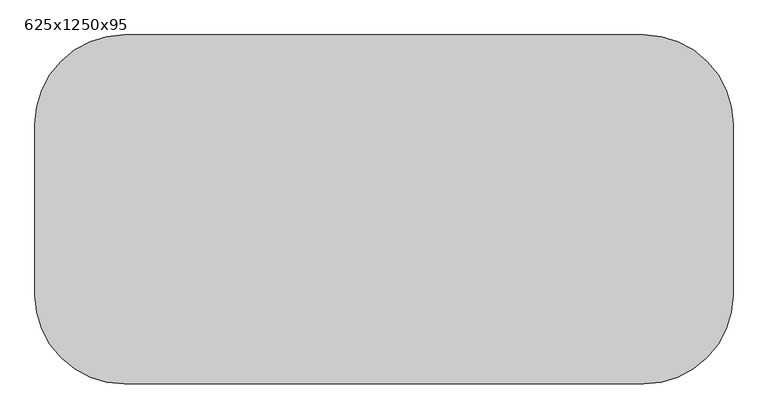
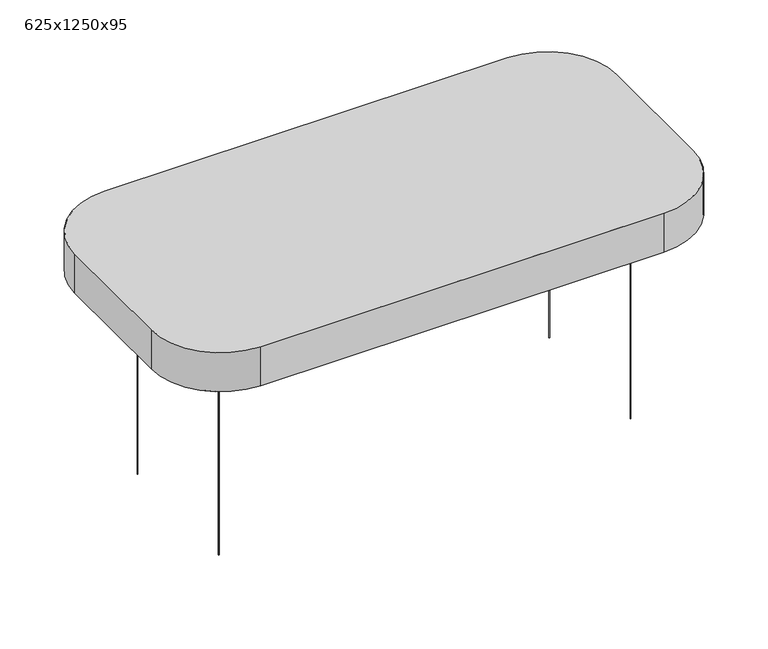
"""IFC4 building model written with IfcOpenShell, lengths in millimetres: proxy geometry, Texaa_Coussin_Abso_Rectangles_Suspendus_plafond : 625x1250x95."""

from ifc_helpers import new_model, si_unit, point, frame, frame_2d, origin, origin_with_axes, place, context, project, spatial, polyline, circle_curve, trimmed, segment, composite_curve, outline, extrude, source, transform, mapped, element, save
from ifc_brep_helpers import plane_surface, cylinder_surface, revolved_surface, advanced_brep


def proxy_625x1250x95_d9c0cd38(model_context):
    return source(origin(), model_context, "Body", "SolidModel", [
        extrude(outline(composite_curve([segment(trimmed(circle_curve(frame_2d((-475.0, -162.5)), 0.75), [point((-475.75, -162.5))], [point((-474.25, -162.5))], False, "CARTESIAN"), True, "CONTINUOUS"), segment(trimmed(circle_curve(frame_2d((-475.0, -162.5)), 0.75), [point((-474.25, -162.5))], [point((-475.75, -162.5))], False, "CARTESIAN"), True, "CONTINUOUS")], self_intersect=False)), origin_with_axes(), (0.0, 0.0, 1.0), 500.0),
        extrude(outline(composite_curve([segment(trimmed(circle_curve(frame_2d((475.0, -162.5)), 0.75), [point((474.25, -162.5))], [point((475.75, -162.5))], False, "CARTESIAN"), True, "CONTINUOUS"), segment(trimmed(circle_curve(frame_2d((475.0, -162.5)), 0.75), [point((475.75, -162.5))], [point((474.25, -162.5))], False, "CARTESIAN"), True, "CONTINUOUS")], self_intersect=False)), origin_with_axes(), (0.0, 0.0, 1.0), 500.0),
        extrude(outline(composite_curve([segment(trimmed(circle_curve(frame_2d((475.0, 162.5)), 0.75), [point((474.25, 162.5))], [point((475.75, 162.5))], False, "CARTESIAN"), True, "CONTINUOUS"), segment(trimmed(circle_curve(frame_2d((475.0, 162.5)), 0.75), [point((475.75, 162.5))], [point((474.25, 162.5))], False, "CARTESIAN"), True, "CONTINUOUS")], self_intersect=False)), origin_with_axes(), (0.0, 0.0, 1.0), 500.0),
        extrude(outline(composite_curve([segment(trimmed(circle_curve(frame_2d((-475.0, 162.5)), 0.75), [point((-475.75, 162.5))], [point((-474.25, 162.5))], False, "CARTESIAN"), True, "CONTINUOUS"), segment(trimmed(circle_curve(frame_2d((-475.0, 162.5)), 0.75), [point((-474.25, 162.5))], [point((-475.75, 162.5))], False, "CARTESIAN"), True, "CONTINUOUS")], self_intersect=False)), origin_with_axes(), (0.0, 0.0, 1.0), 500.0),
        extrude(outline(composite_curve([segment(polyline([(-624.0, -152.5), (-624.0, 152.5)]), True, "CONTINUOUS"), segment(trimmed(circle_curve(frame_2d((-465.0, 152.5)), 159.0), [point((-624.0, 152.5))], [point((-465.0, 311.5))], False, "CARTESIAN"), True, "CONTINUOUS"), segment(polyline([(-465.0, 311.5), (465.0, 311.5)]), True, "CONTINUOUS"), segment(trimmed(circle_curve(frame_2d((465.0, 152.5)), 159.0), [point((465.0, 311.5))], [point((624.0, 152.5))], False, "CARTESIAN"), True, "CONTINUOUS"), segment(polyline([(624.0, 152.5), (624.0, -152.5)]), True, "CONTINUOUS"), segment(trimmed(circle_curve(frame_2d((465.0, -152.5)), 159.0), [point((624.0, -152.5))], [point((465.0, -311.5))], False, "CARTESIAN"), True, "CONTINUOUS"), segment(polyline([(465.0, -311.5), (-465.0, -311.5)]), True, "CONTINUOUS"), segment(trimmed(circle_curve(frame_2d((-465.0, -152.5)), 159.0), [point((-465.0, -311.5))], [point((-624.0, -152.5))], False, "CARTESIAN"), True, "CONTINUOUS")], self_intersect=False)), frame((0.0, 0.0, 501.0), z_axis=(0.0, 0.0, 1.0), x_axis=(1.0, 0.0, 0.0)), (0.0, 0.0, 1.0), 93.0),
        advanced_brep(
        [(-625.0, -152.5, 595.0), (-465.0, -312.5, 595.0), (465.0, -312.5, 595.0), (625.0, -152.5, 595.0), (625.0, 152.5, 595.0), (465.0, 312.5, 595.0), (-465.0, 312.5, 595.0), (-625.0, 152.5, 595.0), (-625.0, -152.5, 500.0), (-625.0, 152.5, 500.0), (-465.0, 312.5, 500.0), (465.0, 312.5, 500.0), (625.0, 152.5, 500.0), (625.0, -152.5, 500.0), (465.0, -312.5, 500.0), (-465.0, -312.5, 500.0), (-475.0, 262.5, 500.0), (-575.0, 162.5, 500.0), (-575.0, -162.5, 500.0), (-475.0, -262.5, 500.0), (475.0, -262.5, 500.0), (575.0, -162.5, 500.0), (575.0, 162.5, 500.0), (475.0, 262.5, 500.0), (475.0, 262.5, 501.0), (-475.0, 262.5, 501.0), (575.0, -162.5, 501.0), (575.0, 162.5, 501.0), (-475.0, -262.5, 501.0), (475.0, -262.5, 501.0), (-575.0, 162.5, 501.0), (-575.0, -162.5, 501.0), (-624.0, -152.5, 594.0), (-624.0, 152.5, 594.0), (-465.0, 311.5, 594.0), (465.0, 311.5, 594.0), (624.0, 152.5, 594.0), (624.0, -152.5, 594.0), (465.0, -311.5, 594.0), (-465.0, -311.5, 594.0), (-624.0, -152.5, 501.0), (-465.0, -311.5, 501.0), (465.0, -311.5, 501.0), (624.0, -152.5, 501.0), (624.0, 152.5, 501.0), (465.0, 311.5, 501.0), (-465.0, 311.5, 501.0), (-624.0, 152.5, 501.0)],
        [
            (0, 1, circle_curve(frame((-465.0, -152.5, 595.0), z_axis=(0.0, 0.0, 1.0), x_axis=(1.0, 0.0, 0.0)), 160.0)),
            (1, 2),
            (2, 3, circle_curve(frame((465.0, -152.5, 595.0), z_axis=(0.0, 0.0, 1.0), x_axis=(1.0, 0.0, 0.0)), 160.0)),
            (3, 4),
            (4, 5, circle_curve(frame((465.0, 152.5, 595.0), z_axis=(0.0, 0.0, 1.0), x_axis=(1.0, 0.0, 0.0)), 160.0)),
            (5, 6),
            (6, 7, circle_curve(frame((-465.0, 152.5, 595.0), z_axis=(0.0, 0.0, 1.0), x_axis=(1.0, 0.0, 0.0)), 160.0)),
            (7, 0),
            (8, 9),
            (9, 10, circle_curve(frame((-465.0, 152.5, 500.0), z_axis=(0.0, 0.0, -1.0), x_axis=(1.0, 0.0, 0.0)), 160.0)),
            (10, 11),
            (11, 12, circle_curve(frame((465.0, 152.5, 500.0), z_axis=(0.0, 0.0, -1.0), x_axis=(1.0, 0.0, 0.0)), 160.0)),
            (12, 13),
            (13, 14, circle_curve(frame((465.0, -152.5, 500.0), z_axis=(0.0, 0.0, -1.0), x_axis=(1.0, 0.0, 0.0)), 160.0)),
            (14, 15),
            (15, 8, circle_curve(frame((-465.0, -152.5, 500.0), z_axis=(0.0, 0.0, -1.0), x_axis=(1.0, 0.0, 0.0)), 160.0)),
            (16, 17),
            (17, 18),
            (18, 19),
            (19, 20),
            (20, 21),
            (21, 22),
            (22, 23),
            (23, 16),
            (7, 9),
            (8, 0),
            (5, 11),
            (10, 6),
            (3, 13),
            (12, 4),
            (1, 15),
            (14, 2),
            (23, 24),
            (24, 25),
            (25, 16),
            (21, 26),
            (26, 27),
            (27, 22),
            (19, 28),
            (28, 29),
            (29, 20),
            (17, 30),
            (30, 31),
            (31, 18),
            (32, 33),
            (33, 34, circle_curve(frame((-465.0, 152.5, 594.0), z_axis=(0.0, 0.0, -1.0), x_axis=(1.0, 0.0, 0.0)), 159.0)),
            (34, 35),
            (35, 36, circle_curve(frame((465.0, 152.5, 594.0), z_axis=(0.0, 0.0, -1.0), x_axis=(1.0, 0.0, 0.0)), 159.0)),
            (36, 37),
            (37, 38, circle_curve(frame((465.0, -152.5, 594.0), z_axis=(0.0, 0.0, -1.0), x_axis=(1.0, 0.0, 0.0)), 159.0)),
            (38, 39),
            (39, 32, circle_curve(frame((-465.0, -152.5, 594.0), z_axis=(0.0, 0.0, -1.0), x_axis=(1.0, 0.0, 0.0)), 159.0)),
            (40, 41, circle_curve(frame((-465.0, -152.5, 501.0), z_axis=(0.0, 0.0, 1.0), x_axis=(1.0, 0.0, 0.0)), 159.0)),
            (41, 42),
            (42, 43, circle_curve(frame((465.0, -152.5, 501.0), z_axis=(0.0, 0.0, 1.0), x_axis=(1.0, 0.0, 0.0)), 159.0)),
            (43, 44),
            (44, 45, circle_curve(frame((465.0, 152.5, 501.0), z_axis=(0.0, 0.0, 1.0), x_axis=(1.0, 0.0, 0.0)), 159.0)),
            (45, 46),
            (46, 47, circle_curve(frame((-465.0, 152.5, 501.0), z_axis=(0.0, 0.0, 1.0), x_axis=(1.0, 0.0, 0.0)), 159.0)),
            (47, 40),
            (24, 27),
            (26, 29),
            (28, 31),
            (30, 25),
            (32, 40),
            (47, 33),
            (34, 46),
            (45, 35),
            (36, 44),
            (43, 37),
            (38, 42),
            (41, 39),
        ],
        [
            plane_surface(frame((-625.0, 152.5, 595.0), z_axis=(0.0, 0.0, 1.0), x_axis=(0.0, 1.0, 0.0))),
            plane_surface(frame((-625.0, 152.5, 500.0), z_axis=(0.0, 0.0, -1.0), x_axis=(0.0, -1.0, 0.0))),
            plane_surface(frame((-625.0, -152.5, 595.0), z_axis=(-1.0, 0.0, 0.0), x_axis=(0.0, 0.0, -1.0))),
            plane_surface(frame((-465.0, 312.5, 595.0), z_axis=(0.0, 1.0, 0.0), x_axis=(0.0, 0.0, -1.0))),
            plane_surface(frame((625.0, 152.5, 595.0), z_axis=(1.0, 0.0, 0.0), x_axis=(0.0, 0.0, -1.0))),
            plane_surface(frame((465.0, -312.5, 595.0), z_axis=(0.0, -1.0, 0.0), x_axis=(0.0, 0.0, -1.0))),
            plane_surface(frame((-475.0, 262.5, 501.0), z_axis=(0.0, -1.0, 0.0), x_axis=(0.0, 0.0, -1.0))),
            plane_surface(frame((575.0, 162.5, 501.0), z_axis=(-1.0, 0.0, 0.0), x_axis=(0.0, 0.0, -1.0))),
            plane_surface(frame((475.0, -262.5, 501.0), z_axis=(0.0, 1.0, 0.0), x_axis=(0.0, 0.0, -1.0))),
            plane_surface(frame((-575.0, -162.5, 501.0), z_axis=(1.0, 0.0, 0.0), x_axis=(0.0, 0.0, -1.0))),
            plane_surface(frame((-624.0, 152.5, 594.0), z_axis=(0.0, 0.0, -1.0), x_axis=(0.0, 1.0, 0.0))),
            plane_surface(frame((-624.0, 152.5, 501.0), z_axis=(0.0, 0.0, 1.0), x_axis=(0.0, -1.0, 0.0))),
            plane_surface(frame((-624.0, -152.5, 594.0), z_axis=(1.0, 0.0, 0.0), x_axis=(0.0, 0.0, -1.0))),
            plane_surface(frame((-465.0, 311.5, 594.0), z_axis=(0.0, -1.0, 0.0), x_axis=(0.0, 0.0, -1.0))),
            plane_surface(frame((624.0, 152.5, 594.0), z_axis=(-1.0, 0.0, 0.0), x_axis=(0.0, 0.0, -1.0))),
            plane_surface(frame((465.0, -311.5, 594.0), z_axis=(0.0, 1.0, 0.0), x_axis=(0.0, 0.0, -1.0))),
            cylinder_surface(frame((-465.0, 152.5, 500.0), z_axis=(0.0, 0.0, 1.0), x_axis=(1.0, 0.0, 0.0)), 160.0),
            cylinder_surface(frame((465.0, 152.5, 500.0), z_axis=(0.0, 0.0, 1.0), x_axis=(1.0, 0.0, 0.0)), 160.0),
            cylinder_surface(frame((465.0, -152.5, 500.0), z_axis=(0.0, 0.0, 1.0), x_axis=(1.0, 0.0, 0.0)), 160.0),
            cylinder_surface(frame((-465.0, -152.5, 500.0), z_axis=(0.0, 0.0, 1.0), x_axis=(1.0, 0.0, 0.0)), 160.0),
            revolved_surface(polyline([(-306.0, 152.5, 594.0), (-306.0, 152.5, 501.0)]), (-465.0, 152.5, 501.0), (0.0, 0.0, 1.0)),
            revolved_surface(polyline([(624.0, 152.5, 594.0), (624.0, 152.5, 501.0)]), (465.0, 152.5, 501.0), (0.0, 0.0, 1.0)),
            revolved_surface(polyline([(624.0, -152.5, 594.0), (624.0, -152.5, 501.0)]), (465.0, -152.5, 501.0), (0.0, 0.0, 1.0)),
            revolved_surface(polyline([(-306.0, -152.5, 594.0), (-306.0, -152.5, 501.0)]), (-465.0, -152.5, 501.0), (0.0, 0.0, 1.0)),
            plane_surface(frame((-575.0, 162.5, 501.0), z_axis=(0.7071067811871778, -0.7071067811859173, 0.0), x_axis=(0.0, 0.0, -1.0))),
            plane_surface(frame((475.0, 262.5, 501.0), z_axis=(-0.7071067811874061, -0.707106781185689, 0.0), x_axis=(0.0, 0.0, -1.0))),
            plane_surface(frame((575.0, -162.5, 501.0), z_axis=(-0.7071067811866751, 0.70710678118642, 0.0), x_axis=(0.0, 0.0, -1.0))),
            plane_surface(frame((-475.0, -262.5, 501.0), z_axis=(0.7071067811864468, 0.7071067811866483, 0.0), x_axis=(0.0, 0.0, -1.0))),
        ],
        [
            (0, [[1, 2, 3, 4, 5, 6, 7, 8]]),
            (1, [[9, 10, 11, 12, 13, 14, 15, 16], [17, 18, 19, 20, 21, 22, 23, 24]]),
            (2, [[25, -9, 26, -8]]),
            (3, [[27, -11, 28, -6]]),
            (4, [[29, -13, 30, -4]]),
            (5, [[31, -15, 32, -2]]),
            (6, [[-24, 33, 34, 35]]),
            (7, [[-22, 36, 37, 38]]),
            (8, [[-20, 39, 40, 41]]),
            (9, [[-18, 42, 43, 44]]),
            (10, [[45, 46, 47, 48, 49, 50, 51, 52]]),
            (11, [[53, 54, 55, 56, 57, 58, 59, 60], [61, -37, 62, -40, 63, -43, 64, -34]]),
            (12, [[65, -60, 66, -45]]),
            (13, [[67, -58, 68, -47]]),
            (14, [[69, -56, 70, -49]]),
            (15, [[71, -54, 72, -51]]),
            (16, [[-28, -10, -25, -7]]),
            (17, [[-30, -12, -27, -5]]),
            (18, [[-32, -14, -29, -3]]),
            (19, [[-26, -16, -31, -1]]),
            (20, [[-66, -59, -67, -46]]),
            (21, [[-68, -57, -69, -48]]),
            (22, [[-70, -55, -71, -50]]),
            (23, [[-72, -53, -65, -52]]),
            (24, [[-64, -42, -17, -35]]),
            (25, [[-61, -33, -23, -38]]),
            (26, [[-62, -36, -21, -41]]),
            (27, [[-63, -39, -19, -44]]),
        ],
    ),
    ])


if __name__ == "__main__":
    model = new_model("IFC4")
    model_context = context("Model", 3, world=origin())
    ifc_project = project(units=[si_unit("LENGTHUNIT", "METRE", prefix="MILLI")], contexts=[model_context])
    site = spatial("IfcSite", under=ifc_project)
    building = spatial("IfcBuilding", under=site)
    placement = place(None, origin())
    proxy_625x1250x95_shape = proxy_625x1250x95_d9c0cd38(model_context)
    element("IfcBuildingElementProxy", 1, Name="Texaa_Coussin_Abso_Rectangles_Suspendus_plafond : 625x1250x95", ObjectType="Texaa_Coussin_Abso_Rectangles_Suspendus_plafond : 625x1250x95", at=placement, inside=building, context=model_context, shape_type="MappedRepresentation", body=[
        mapped(proxy_625x1250x95_shape, transform((0.0, 0.0, 0.0), x_axis=(1.0, 0.0, 0.0), y_axis=(0.0, 1.0, 0.0), z_axis=(0.0, 0.0, 1.0))),
    ])
    save(model, "model.ifc")
